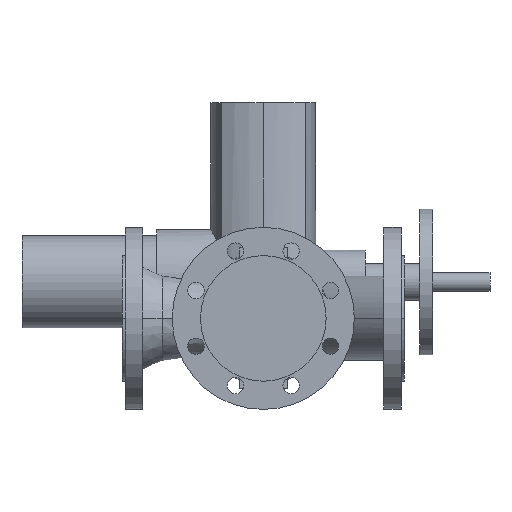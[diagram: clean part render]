
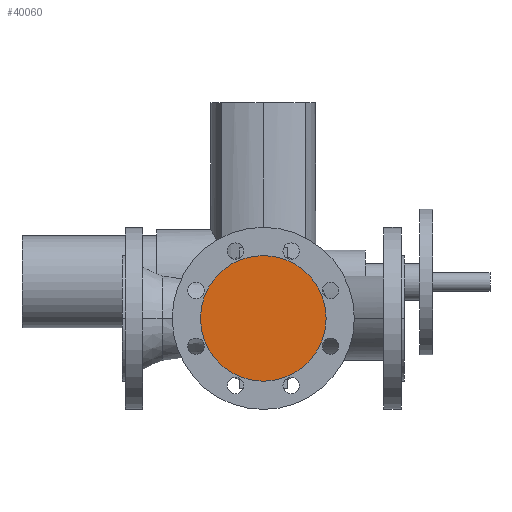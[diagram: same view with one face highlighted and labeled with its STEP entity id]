
A CAD part, front view. The second image highlights one B-rep face of the part: STEP entity #40060.
In plain terms, the highlighted planar face has unit normal (0, -1, 0).
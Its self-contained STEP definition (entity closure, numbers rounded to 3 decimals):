
#3640=CARTESIAN_POINT('',(86.,-130.,0.));
#3650=VERTEX_POINT('',#3640);
#3810=CARTESIAN_POINT('',(224.,-130.,0.));
#3820=VERTEX_POINT('',#3810);
#3850=CARTESIAN_POINT('',(155.,-130.,0.));
#3860=DIRECTION('',(0.,1.,0.));
#3870=DIRECTION('',(1.,0.,0.));
#3880=AXIS2_PLACEMENT_3D('',#3850,#3860,#3870);
#3890=CIRCLE('',#3880,69.);
#3900=EDGE_CURVE('',#3650,#3820,#3890,.T.);
#39960=CARTESIAN_POINT('',(189.5,-130.,0.));
#39970=DIRECTION('',(0.,-1.,0.));
#39980=DIRECTION('',(-1.,0.,0.));
#39990=AXIS2_PLACEMENT_3D('',#39960,#39970,#39980);
#40000=PLANE('',#39990);
#40010=EDGE_CURVE('',#3820,#3650,#3890,.T.);
#40020=ORIENTED_EDGE('',*,*,#40010,.F.);
#40030=ORIENTED_EDGE('',*,*,#3900,.F.);
#40040=EDGE_LOOP('',(#40030,#40020));
#40050=FACE_OUTER_BOUND('',#40040,.T.);
#40060=ADVANCED_FACE('',(#40050),#40000,.T.);
